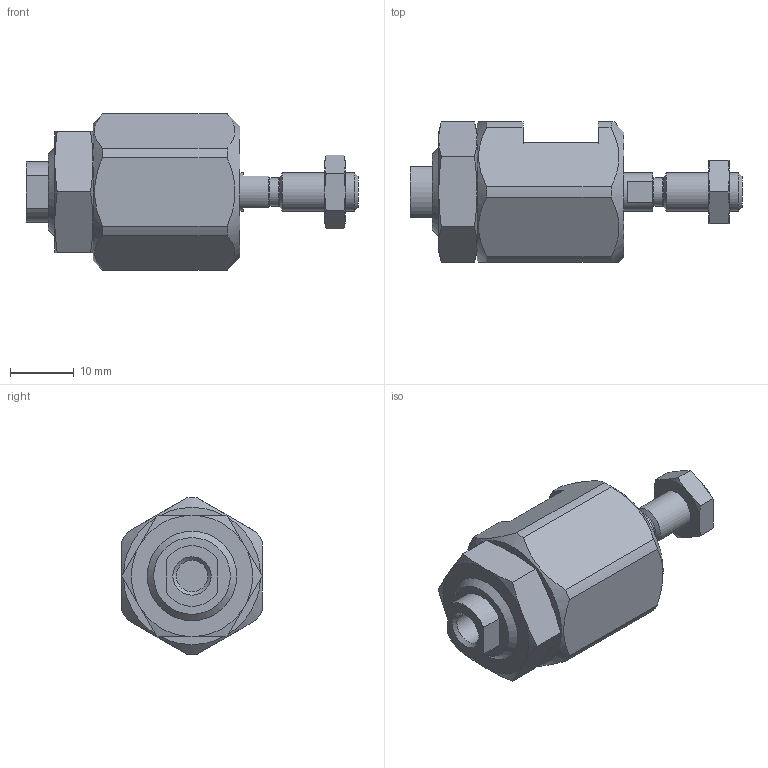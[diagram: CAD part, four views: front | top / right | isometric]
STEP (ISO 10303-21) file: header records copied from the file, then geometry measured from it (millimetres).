
FILE_DESCRIPTION( ( 'STEP AP203' ), '1' );
FILE_NAME( 'C:/Temp/Ganter_Step_05_03_2020/data/3_6/gn240_2/Rapid plug-in coupling GN 240.2-M6 (0).stp', '2020-03-12T14:08:21', ( 'License CC BY-ND 4.0' ), ( 'CADENAS' ), ' ', 'PARTsolutions', ' ' );
FILE_SCHEMA( ( 'CONFIG_CONTROL_DESIGN' ) );
Length unit declared in the file: millimetre
Products named in the file (4): Rapid plug-in coupling GN 240.2-M6 (0); _Rapid plug-in coupling GN 240.2-M6 (0)-1; _Rapid plug-in coupling GN 240.2-M6 (0)-5; _Rapid plug-in coupling GN 240.2-M6 (0)-4
Assembly tree (3 placements, depth 2):
  Rapid plug-in coupling GN 240.2-M6 (0)
    _Rapid plug-in coupling GN 240.2-M6 (0)-1
    _Rapid plug-in coupling GN 240.2-M6 (0)-5
    _Rapid plug-in coupling GN 240.2-M6 (0)-4
Bounding box: 52 x 22 x 24.5 mm (x, y, z)
Volume: 9855.2 mm3; surface area: 5513.9 mm2
Topology: 3 solids, 3 shells, 102 faces, 232 edges, 144 vertices
Faces by surface type: plane 46, cone 34, cylinder 19, torus 2, sphere 1
Full cylindrical faces by diameter (mm): 4.4 x1, 4.917 x2, 6 x2, 13.5 x2
Entity records: 3082 total; most frequent: CARTESIAN_POINT 802, DIRECTION 439, ORIENTED_EDGE 420, EDGE_CURVE 210, AXIS2_PLACEMENT_3D 186, VERTEX_POINT 141, EDGE_LOOP 133, FACE_OUTER_BOUND 112
